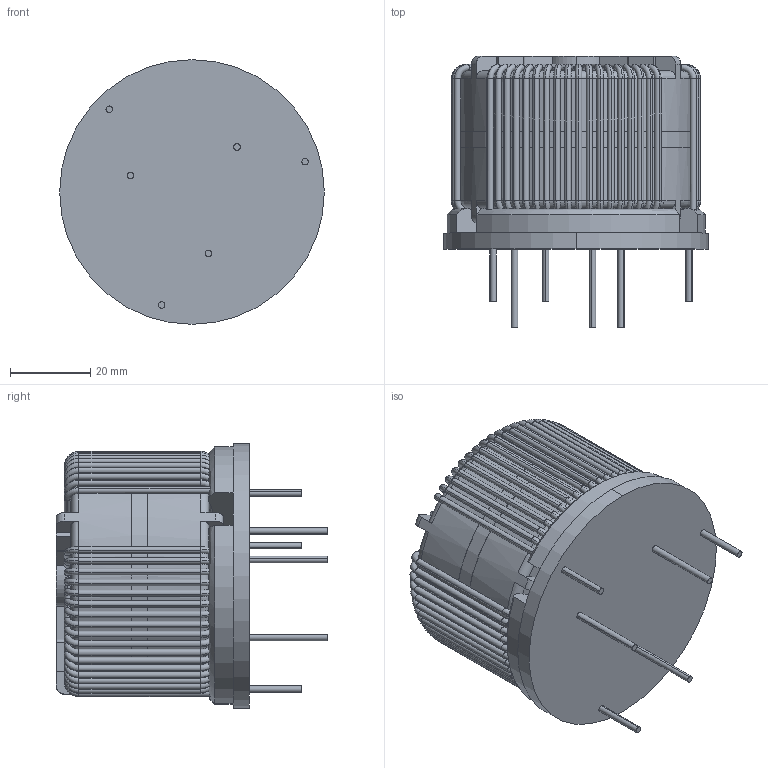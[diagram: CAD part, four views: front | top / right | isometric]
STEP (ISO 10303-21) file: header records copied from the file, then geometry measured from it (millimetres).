
FILE_DESCRIPTION (( 'STEP AP203' ), '1' );
FILE_NAME ('TPC-163U-B20A.STEP', '2020-08-27T06:29:26', ( 'Windows User' ), ( '' ), 'SwSTEP 2.0', 'SolidWorks 2015', '' );
FILE_SCHEMA (( 'CONFIG_CONTROL_DESIGN' ));
Products named in the file (6): TPC-163U-B20A; TPC-163U-B20A - COIL; TPC-163U-B20A - SPACER; TPC-163U-B20A - SILICONE; TPC-163U-B20A - CORE; TPC-163U-B20A - FRAME
Assembly tree (5 placements, depth 2):
  TPC-163U-B20A
    TPC-163U-B20A - CORE
    TPC-163U-B20A - COIL
    TPC-163U-B20A - FRAME
    TPC-163U-B20A - SPACER
    TPC-163U-B20A - SILICONE
Bounding box: 66.06 x 67.74 x 66.06 mm (x, y, z)
Volume: 94801.3 mm3; surface area: 61610.5 mm2
Topology: 15 solids, 15 shells, 1094 faces, 3161 edges, 2098 vertices
Faces by surface type: torus 456, cylinder 385, bspline 147, plane 106
Entity records: 47038 total; most frequent: CARTESIAN_POINT 16680, DIRECTION 6875, ORIENTED_EDGE 6322, EDGE_CURVE 3161, AXIS2_PLACEMENT_3D 3125, CIRCLE 2170, VERTEX_POINT 2098, EDGE_LOOP 1111
